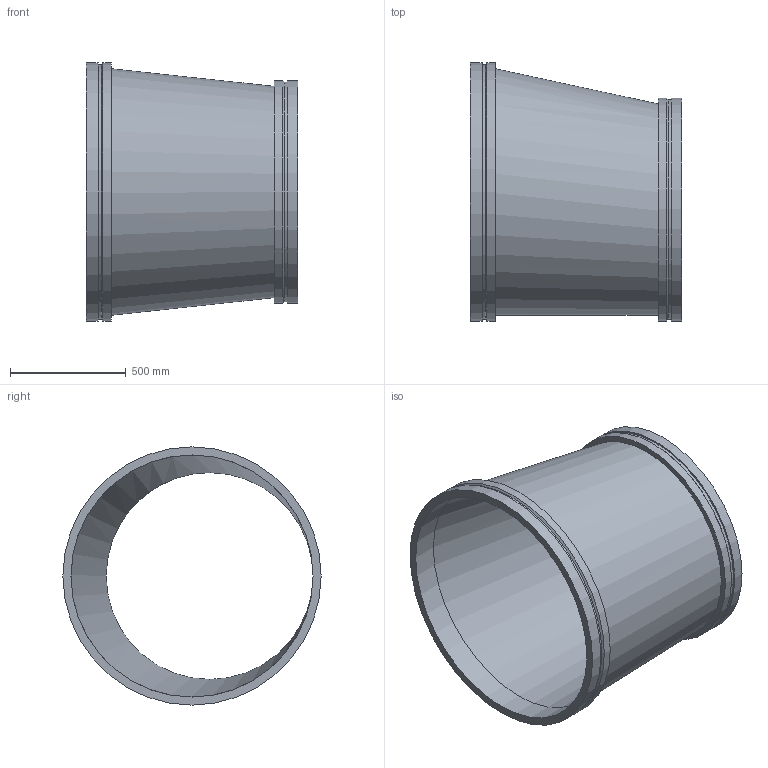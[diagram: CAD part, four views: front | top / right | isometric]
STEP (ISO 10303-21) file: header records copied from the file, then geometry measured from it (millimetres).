
FILE_DESCRIPTION(/* description */ ('VIC REDUCER ECCENTRIC No W51-VR','CAx-IF Rec.Pracs.---Representation and Presentation of Product Manufacturing Information (PMI)---4.0---2014-10-13'),/* implementation_level */ '2;1');
FILE_NAME(/* name */ 'C:\Users\kkamble\AppData\Roaming\Autodesk\ApplicationPlugins\Back Up\Victaulic_Vic-Ring_Reducer Eccentric_No W51 VR (AGR)\Victaulic_Vic-Ring_Reducer Eccentric_No W51 VR (AGR)_42.0x36.0 (1050x900).stp',/* time_stamp */ '2020-09-10T11:51:15+05:00',/* author */ ('CONSTRUCTION PIPING SERVICES'),/* organization */ ('Victaulic'),/* preprocessor_version */ 'ST-DEVELOPER v17.2',/* originating_system */ 'Autodesk Inventor 2019',/* authorisation */ '');
FILE_SCHEMA (('AP242_MANAGED_MODEL_BASED_3D_ENGINEERING_MIM_LF { 1 0 10303 442 1 1 4 }'));
Length unit declared in the file: inch
Products named in the file (1): W51 VR-42.0x36.0
Bounding box: 914.4 x 1117.6 x 1117.6 mm (x, y, z)
Volume: 43072235.9 mm3; surface area: 6164833.2 mm2
Topology: 1 solids, 1 shells, 18 faces, 49 edges, 37 vertices
Faces by surface type: cylinder 8, plane 6, cone 2, bspline 2
Full cylindrical faces by diameter (mm): 895.35 x1, 950.722 x1, 965.2 x2, 1047.75 x1, 1101.725 x1, 1117.6 x2
Entity records: 792 total; most frequent: CARTESIAN_POINT 158, DIRECTION 144, ORIENTED_EDGE 98, AXIS2_PLACEMENT_3D 67, EDGE_CURVE 49, CIRCLE 37, VERTEX_POINT 37, EDGE_LOOP 24
